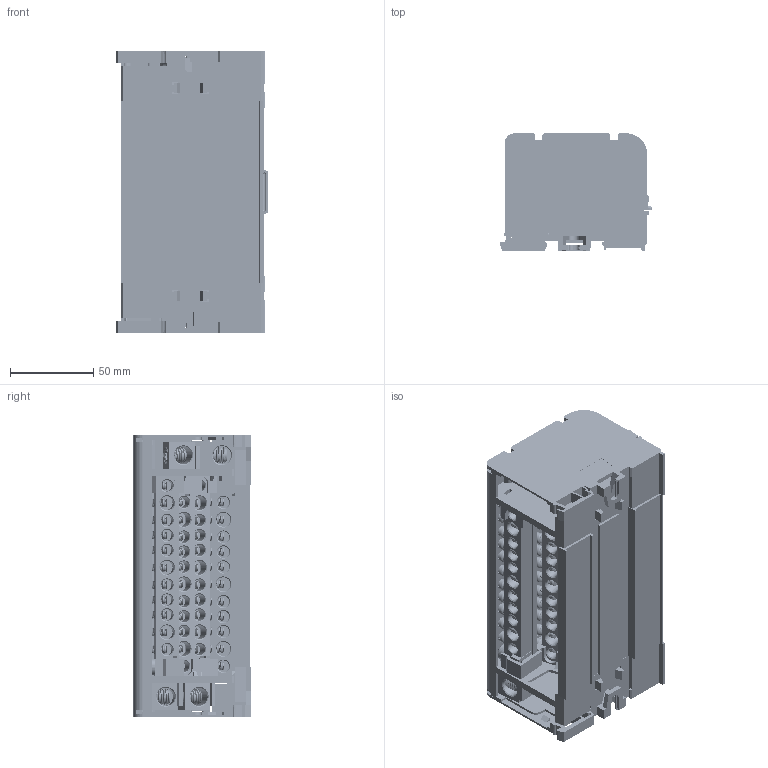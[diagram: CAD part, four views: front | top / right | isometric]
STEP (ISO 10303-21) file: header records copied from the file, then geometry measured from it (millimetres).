
FILE_DESCRIPTION(/* description */ (''),/* implementation_level */ '2;1');
FILE_NAME(/* name */ 'UK412.stp',/* time_stamp */ '2019-12-10T14:53:49+08:00',/* author */ (''),/* organization */ (''),/* preprocessor_version */ 'ST-DEVELOPER v16',/* originating_system */ 'SIEMENS PLM Software NX 10.0',/* authorisation */ '');
FILE_SCHEMA (('AUTOMOTIVE_DESIGN { 1 0 10303 214 3 1 1 1 }'));
Products named in the file (1): Admi1A6064079v09
Bounding box: 91.51 x 70.5 x 169.7 mm (x, y, z)
Volume: 248480.5 mm3; surface area: 243163.2 mm2
Topology: 70 solids, 70 shells, 2719 faces, 7535 edges, 4948 vertices
Faces by surface type: plane 2010, cylinder 396, bspline 150, cone 112, torus 48, sphere 2, extrusion 1
Full cylindrical faces by diameter (mm): 4.3 x44, 5.3 x4, 6.2 x4, 6.5 x44, 7 x32, 8.5 x16, 10 x4, 11 x4
Entity records: 244031 total; most frequent: CARTESIAN_POINT 177071, ORIENTED_EDGE 14218, DIRECTION 12289, EDGE_CURVE 7109, VECTOR 5183, LINE 5182, VERTEX_POINT 4836, AXIS2_PLACEMENT_3D 3553
